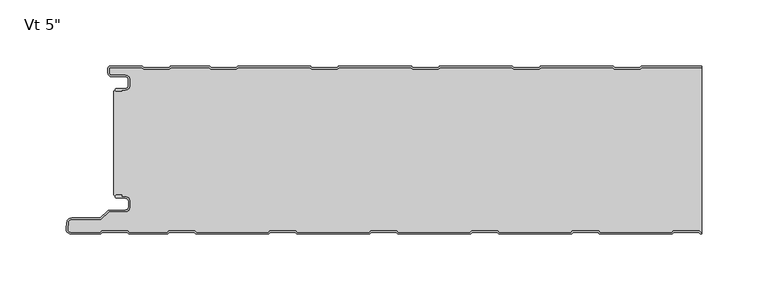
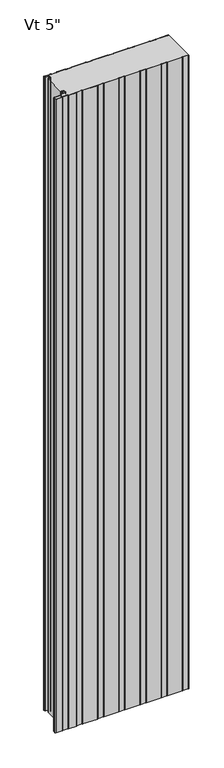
"""IFC4 building model written with IfcOpenShell, lengths in millimetres: plate geometry."""

from ifc_helpers import new_model, si_unit, point, frame, frame_2d, origin, origin_with_axes, place, context, project, spatial, polyline, circle_curve, trimmed, segment, composite_curve, outline, extrude, source, transform, mapped, element, save
from ifc_brep_helpers import plane_surface, cylinder_surface, revolved_surface, advanced_brep


def plate_5aba35be(model_context):
    return source(origin(), model_context, "Body", "SolidModel", [
        advanced_brep(
        [(-219.9686911, -17.0015243, 2400.0), (-220.9686883, -18.0015275, 2400.0), (-219.9686911, -19.0015188, 2400.0), (-215.9684874, -19.0015188, 2400.0), (-215.9684874, -18.0015243, 2400.0), (-213.2762776, -18.0015243, 2400.0), (-209.9762819, -14.7015286, 2400.0), (-209.9762819, -10.3015374, 2400.0), (-213.2762774, -7.0015419, 2400.0), (-223.6962563, -7.0015419, 2400.0), (-225.4662505, -5.2315477, 2400.0), (-225.4662505, -1.0, 2400.0), (-200.9659739, -1.0, 2400.0), (-199.5803313, -2.2002391, 2400.0), (-180.205165, -2.2002391, 2400.0), (-178.819532, -1.0000084, 2400.0), (-150.1661166, -1.0000084, 2400.0), (-148.7804837, -2.2002391, 2400.0), (-129.4053174, -2.2002391, 2400.0), (-128.0196844, -1.0000084, 2400.0), (-73.966269, -1.0000084, 2400.0), (-72.5806361, -2.2002391, 2400.0), (-53.2054698, -2.2002391, 2400.0), (-51.8198368, -1.0000084, 2400.0), (2.2335786, -1.0000084, 2400.0), (3.6192115, -2.2002391, 2400.0), (22.9943778, -2.2002391, 2400.0), (24.3800108, -1.0000084, 2400.0), (78.4334262, -1.0000084, 2400.0), (79.8190591, -2.2002391, 2400.0), (99.1942254, -2.2002391, 2400.0), (100.5798584, -1.0000084, 2400.0), (154.6332738, -1.0000084, 2400.0), (156.0189067, -2.2002391, 2400.0), (175.394073, -2.2002391, 2400.0), (176.779706, -1.0000084, 2400.0), (221.9999998, -1.0000084, 2400.0), (221.9999998, -8.4e-06, 2400.0), (176.9288571, -8.4e-06, 2400.0), (176.0122402, -0.3417969, 2400.0), (175.0211926, -1.2002391, 2400.0), (156.3917872, -1.2002391, 2400.0), (155.4007395, -0.3417969, 2400.0), (154.4841226, -8.4e-06, 2400.0), (100.7290095, -8.4e-06, 2400.0), (99.8123926, -0.3417969, 2400.0), (98.821345, -1.2002391, 2400.0), (80.1919396, -1.2002391, 2400.0), (79.2008919, -0.3417969, 2400.0), (78.284275, -8.4e-06, 2400.0), (24.5291619, -8.4e-06, 2400.0), (23.612545, -0.3417969, 2400.0), (22.6214974, -1.2002391, 2400.0), (3.992092, -1.2002391, 2400.0), (3.0010443, -0.3417969, 2400.0), (2.0844274, -8.4e-06, 2400.0), (-51.6706857, -8.4e-06, 2400.0), (-52.5873026, -0.3417969, 2400.0), (-53.5783502, -1.2002391, 2400.0), (-72.2077556, -1.2002391, 2400.0), (-73.1988033, -0.3417969, 2400.0), (-74.1154202, -8.4e-06, 2400.0), (-127.8705333, -8.4e-06, 2400.0), (-128.7871502, -0.3417969, 2400.0), (-129.7781978, -1.2002391, 2400.0), (-148.4076032, -1.2002391, 2400.0), (-149.3986509, -0.3417969, 2400.0), (-150.3152678, -8.4e-06, 2400.0), (-178.6703809, -8.4e-06, 2400.0), (-179.5869978, -0.3417969, 2400.0), (-180.5780454, -1.2002391, 2400.0), (-199.2074508, -1.2002391, 2400.0), (-200.1984985, -0.3417969, 2400.0), (-201.1152068, -8.4e-06, 2400.0), (-225.0662544, 0.0, 2400.0), (-226.4662505, -1.3999962, 2400.0), (-226.4662505, -5.2315477, 2400.0), (-223.6962563, -8.0015419, 2400.0), (-213.2762774, -8.0015419, 2400.0), (-210.9762819, -10.3015374, 2400.0), (-210.9762819, -14.7015286, 2400.0), (-213.2762776, -17.0015243, 2400.0), (-219.9686911, -17.0015243, 0.0), (-213.2762776, -17.0015243, 0.0), (-210.9762819, -14.7015286, 0.0), (-210.9762819, -10.3015374, 0.0), (-213.2762774, -8.0015419, 0.0), (-223.6962563, -8.0015419, 0.0), (-226.4662505, -5.2315477, 0.0), (-226.4662505, -1.3999962, 0.0), (-225.0662544, 0.0, 0.0), (-201.1151154, 0.0, 0.0), (-200.1984985, -0.3417969, 0.0), (-199.2074508, -1.2002391, 0.0), (-180.5780454, -1.2002391, 0.0), (-179.5869978, -0.3417969, 0.0), (-178.6703809, -8.4e-06, 0.0), (-150.3152678, -8.4e-06, 0.0), (-149.3986509, -0.3417969, 0.0), (-148.4076032, -1.2002391, 0.0), (-129.7781978, -1.2002391, 0.0), (-128.7871502, -0.3417969, 0.0), (-127.8705333, -8.4e-06, 0.0), (-74.1154202, -8.4e-06, 0.0), (-73.1988033, -0.3417969, 0.0), (-72.2077556, -1.2002391, 0.0), (-53.5783502, -1.2002391, 0.0), (-52.5873026, -0.3417969, 0.0), (-51.6706857, -8.4e-06, 0.0), (2.0844274, -8.4e-06, 0.0), (3.0010443, -0.3417969, 0.0), (3.992092, -1.2002391, 0.0), (22.6214974, -1.2002391, 0.0), (23.612545, -0.3417969, 0.0), (24.5291619, -8.4e-06, 0.0), (78.284275, -8.4e-06, 0.0), (79.2008919, -0.3417969, 0.0), (80.1919396, -1.2002391, 0.0), (98.821345, -1.2002391, 0.0), (99.8123926, -0.3417969, 0.0), (100.7290095, -8.4e-06, 0.0), (154.4841226, -8.4e-06, 0.0), (155.4007395, -0.3417969, 0.0), (156.3917872, -1.2002391, 0.0), (175.0211926, -1.2002391, 0.0), (176.0122402, -0.3417969, 0.0), (176.9288571, -8.4e-06, 0.0), (221.9999998, -8.4e-06, 0.0), (221.9999998, -1.0000084, 0.0), (176.779706, -1.0000084, 0.0), (175.394073, -2.2002391, 0.0), (156.0189067, -2.2002391, 0.0), (154.6332738, -1.0000084, 0.0), (100.5798584, -1.0000084, 0.0), (99.1942254, -2.2002391, 0.0), (79.8190591, -2.2002391, 0.0), (78.4334262, -1.0000084, 0.0), (24.3800108, -1.0000084, 0.0), (22.9943778, -2.2002391, 0.0), (3.6192115, -2.2002391, 0.0), (2.2335786, -1.0000084, 0.0), (-51.8198368, -1.0000084, 0.0), (-53.2054698, -2.2002391, 0.0), (-72.5806361, -2.2002391, 0.0), (-73.966269, -1.0000084, 0.0), (-128.0196844, -1.0000084, 0.0), (-129.4053174, -2.2002391, 0.0), (-148.7804837, -2.2002391, 0.0), (-150.1661166, -1.0000084, 0.0), (-178.819532, -1.0000084, 0.0), (-180.205165, -2.2002391, 0.0), (-199.5803313, -2.2002391, 0.0), (-200.9659739, -1.0, 0.0), (-225.4662505, -1.0, 0.0), (-225.4662505, -5.2315477, 0.0), (-223.6962563, -7.0015419, 0.0), (-213.2762774, -7.0015419, 0.0), (-209.9762819, -10.3015374, 0.0), (-209.9762819, -14.7015286, 0.0), (-213.2762776, -18.0015243, 0.0), (-215.9684874, -18.0015243, 0.0), (-215.9684874, -19.0015188, 0.0), (-219.9686911, -19.0015188, 0.0), (-220.9686883, -18.0015275, 0.0)],
        [
            (0, 1, circle_curve(frame((-219.9686911, -18.0015215, 2400.0), z_axis=(0.0, 0.0, 1.0), x_axis=(1.0, 0.0, 0.0)), 0.9999973)),
            (1, 2, circle_curve(frame((-219.9686911, -18.0015216, 2400.0), z_axis=(0.0, 0.0, 1.0), x_axis=(1.0, 0.0, 0.0)), 0.9999972)),
            (2, 3),
            (3, 4),
            (4, 5),
            (5, 6, circle_curve(frame((-213.2762776, -14.7015286, 2400.0), z_axis=(0.0, 0.0, 1.0), x_axis=(1.0, 0.0, 0.0)), 3.2999957)),
            (6, 7),
            (7, 8, circle_curve(frame((-213.2762774, -10.3015374, 2400.0), z_axis=(0.0, 0.0, 1.0), x_axis=(1.0, 0.0, 0.0)), 3.2999955)),
            (8, 9),
            (9, 10, circle_curve(frame((-223.6962563, -5.2315477, 2400.0), z_axis=(0.0, 0.0, -1.0), x_axis=(1.0, 0.0, 0.0)), 1.7699942)),
            (10, 11),
            (11, 12),
            (12, 13),
            (13, 14),
            (14, 15),
            (15, 16),
            (16, 17),
            (17, 18),
            (18, 19),
            (19, 20),
            (20, 21),
            (21, 22),
            (22, 23),
            (23, 24),
            (24, 25),
            (25, 26),
            (26, 27),
            (27, 28),
            (28, 29),
            (29, 30),
            (30, 31),
            (31, 32),
            (32, 33),
            (33, 34),
            (34, 35),
            (35, 36),
            (36, 37),
            (37, 38),
            (38, 39, circle_curve(frame((176.9288571, -1.4000056, 2400.0), z_axis=(0.0, 0.0, 1.0), x_axis=(1.0, 0.0, 0.0)), 1.3999972)),
            (39, 40),
            (40, 41),
            (41, 42),
            (42, 43, circle_curve(frame((154.4841226, -1.4000056, 2400.0), z_axis=(0.0, 0.0, 1.0), x_axis=(1.0, 0.0, 0.0)), 1.3999972)),
            (43, 44),
            (44, 45, circle_curve(frame((100.7290095, -1.4000056, 2400.0), z_axis=(0.0, 0.0, 1.0), x_axis=(1.0, 0.0, 0.0)), 1.3999972)),
            (45, 46),
            (46, 47),
            (47, 48),
            (48, 49, circle_curve(frame((78.284275, -1.4000056, 2400.0), z_axis=(0.0, 0.0, 1.0), x_axis=(1.0, 0.0, 0.0)), 1.3999972)),
            (49, 50),
            (50, 51, circle_curve(frame((24.5291619, -1.4000056, 2400.0), z_axis=(0.0, 0.0, 1.0), x_axis=(1.0, 0.0, 0.0)), 1.3999972)),
            (51, 52),
            (52, 53),
            (53, 54),
            (54, 55, circle_curve(frame((2.0844274, -1.4000056, 2400.0), z_axis=(0.0, 0.0, 1.0), x_axis=(1.0, 0.0, 0.0)), 1.3999972)),
            (55, 56),
            (56, 57, circle_curve(frame((-51.6706857, -1.4000056, 2400.0), z_axis=(0.0, 0.0, 1.0), x_axis=(1.0, 0.0, 0.0)), 1.3999972)),
            (57, 58),
            (58, 59),
            (59, 60),
            (60, 61, circle_curve(frame((-74.1154202, -1.4000056, 2400.0), z_axis=(0.0, 0.0, 1.0), x_axis=(1.0, 0.0, 0.0)), 1.3999972)),
            (61, 62),
            (62, 63, circle_curve(frame((-127.8705333, -1.4000056, 2400.0), z_axis=(0.0, 0.0, 1.0), x_axis=(1.0, 0.0, 0.0)), 1.3999972)),
            (63, 64),
            (64, 65),
            (65, 66),
            (66, 67, circle_curve(frame((-150.3152678, -1.4000056, 2400.0), z_axis=(0.0, 0.0, 1.0), x_axis=(1.0, 0.0, 0.0)), 1.3999972)),
            (67, 68),
            (68, 69, circle_curve(frame((-178.6703809, -1.4000056, 2400.0), z_axis=(0.0, 0.0, 1.0), x_axis=(1.0, 0.0, 0.0)), 1.3999972)),
            (69, 70),
            (70, 71),
            (71, 72),
            (72, 73, circle_curve(frame((-201.1151154, -1.4000056, 2400.0), z_axis=(0.0, 0.0, 1.0), x_axis=(1.0, 0.0, 0.0)), 1.3999972)),
            (73, 74),
            (74, 75, circle_curve(frame((-225.0662544, -1.3999962, 2400.0), z_axis=(0.0, 0.0, 1.0), x_axis=(1.0, 0.0, 0.0)), 1.3999962)),
            (75, 76),
            (76, 77, circle_curve(frame((-223.6962563, -5.2315477, 2400.0), z_axis=(0.0, 0.0, 1.0), x_axis=(1.0, 0.0, 0.0)), 2.7699942)),
            (77, 78),
            (78, 79, circle_curve(frame((-213.2762774, -10.3015374, 2400.0), z_axis=(0.0, 0.0, -1.0), x_axis=(1.0, 0.0, 0.0)), 2.2999955)),
            (79, 80),
            (80, 81, circle_curve(frame((-213.2762776, -14.7015286, 2400.0), z_axis=(0.0, 0.0, -1.0), x_axis=(1.0, 0.0, 0.0)), 2.2999957)),
            (81, 0),
            (82, 83),
            (83, 84, circle_curve(frame((-213.2762776, -14.7015286, 0.0), z_axis=(0.0, 0.0, 1.0), x_axis=(1.0, 0.0, 0.0)), 2.2999957)),
            (84, 85),
            (85, 86, circle_curve(frame((-213.2762774, -10.3015374, 0.0), z_axis=(0.0, 0.0, 1.0), x_axis=(1.0, 0.0, 0.0)), 2.2999955)),
            (86, 87),
            (87, 88, circle_curve(frame((-223.6962563, -5.2315477, 0.0), z_axis=(0.0, 0.0, -1.0), x_axis=(1.0, 0.0, 0.0)), 2.7699942)),
            (88, 89),
            (89, 90, circle_curve(frame((-225.0662544, -1.3999962, 0.0), z_axis=(0.0, 0.0, -1.0), x_axis=(1.0, 0.0, 0.0)), 1.3999962)),
            (90, 91),
            (91, 92, circle_curve(frame((-201.1151154, -1.4000056, 0.0), z_axis=(0.0, 0.0, -1.0), x_axis=(1.0, 0.0, 0.0)), 1.3999972)),
            (92, 93),
            (93, 94),
            (94, 95),
            (95, 96, circle_curve(frame((-178.6703809, -1.4000056, 0.0), z_axis=(0.0, 0.0, -1.0), x_axis=(1.0, 0.0, 0.0)), 1.3999972)),
            (96, 97),
            (97, 98, circle_curve(frame((-150.3152678, -1.4000056, 0.0), z_axis=(0.0, 0.0, -1.0), x_axis=(1.0, 0.0, 0.0)), 1.3999972)),
            (98, 99),
            (99, 100),
            (100, 101),
            (101, 102, circle_curve(frame((-127.8705333, -1.4000056, 0.0), z_axis=(0.0, 0.0, -1.0), x_axis=(1.0, 0.0, 0.0)), 1.3999972)),
            (102, 103),
            (103, 104, circle_curve(frame((-74.1154202, -1.4000056, 0.0), z_axis=(0.0, 0.0, -1.0), x_axis=(1.0, 0.0, 0.0)), 1.3999972)),
            (104, 105),
            (105, 106),
            (106, 107),
            (107, 108, circle_curve(frame((-51.6706857, -1.4000056, 0.0), z_axis=(0.0, 0.0, -1.0), x_axis=(1.0, 0.0, 0.0)), 1.3999972)),
            (108, 109),
            (109, 110, circle_curve(frame((2.0844274, -1.4000056, 0.0), z_axis=(0.0, 0.0, -1.0), x_axis=(1.0, 0.0, 0.0)), 1.3999972)),
            (110, 111),
            (111, 112),
            (112, 113),
            (113, 114, circle_curve(frame((24.5291619, -1.4000056, 0.0), z_axis=(0.0, 0.0, -1.0), x_axis=(1.0, 0.0, 0.0)), 1.3999972)),
            (114, 115),
            (115, 116, circle_curve(frame((78.284275, -1.4000056, 0.0), z_axis=(0.0, 0.0, -1.0), x_axis=(1.0, 0.0, 0.0)), 1.3999972)),
            (116, 117),
            (117, 118),
            (118, 119),
            (119, 120, circle_curve(frame((100.7290095, -1.4000056, 0.0), z_axis=(0.0, 0.0, -1.0), x_axis=(1.0, 0.0, 0.0)), 1.3999972)),
            (120, 121),
            (121, 122, circle_curve(frame((154.4841226, -1.4000056, 0.0), z_axis=(0.0, 0.0, -1.0), x_axis=(1.0, 0.0, 0.0)), 1.3999972)),
            (122, 123),
            (123, 124),
            (124, 125),
            (125, 126, circle_curve(frame((176.9288571, -1.4000056, 0.0), z_axis=(0.0, 0.0, -1.0), x_axis=(1.0, 0.0, 0.0)), 1.3999972)),
            (126, 127),
            (127, 128),
            (128, 129),
            (129, 130),
            (130, 131),
            (131, 132),
            (132, 133),
            (133, 134),
            (134, 135),
            (135, 136),
            (136, 137),
            (137, 138),
            (138, 139),
            (139, 140),
            (140, 141),
            (141, 142),
            (142, 143),
            (143, 144),
            (144, 145),
            (145, 146),
            (146, 147),
            (147, 148),
            (148, 149),
            (149, 150),
            (150, 151),
            (151, 152),
            (152, 153),
            (153, 154),
            (154, 155, circle_curve(frame((-223.6962563, -5.2315477, 0.0), z_axis=(0.0, 0.0, 1.0), x_axis=(1.0, 0.0, 0.0)), 1.7699942)),
            (155, 156),
            (156, 157, circle_curve(frame((-213.2762774, -10.3015374, 0.0), z_axis=(0.0, 0.0, -1.0), x_axis=(1.0, 0.0, 0.0)), 3.2999955)),
            (157, 158),
            (158, 159, circle_curve(frame((-213.2762776, -14.7015286, 0.0), z_axis=(0.0, 0.0, -1.0), x_axis=(1.0, 0.0, 0.0)), 3.2999957)),
            (159, 160),
            (160, 161),
            (161, 162),
            (162, 163, circle_curve(frame((-219.9686911, -18.0015216, 0.0), z_axis=(0.0, 0.0, -1.0), x_axis=(1.0, 0.0, 0.0)), 0.9999972)),
            (163, 82, circle_curve(frame((-219.9686911, -18.0015215, 0.0), z_axis=(0.0, 0.0, -1.0), x_axis=(1.0, 0.0, 0.0)), 0.9999973)),
            (36, 128),
            (127, 37),
            (81, 83),
            (82, 0),
            (80, 84),
            (79, 85),
            (78, 86),
            (77, 87),
            (76, 88),
            (75, 89),
            (74, 90),
            (73, 91),
            (72, 92),
            (71, 93),
            (70, 94),
            (69, 95),
            (68, 96),
            (67, 97),
            (66, 98),
            (65, 99),
            (64, 100),
            (63, 101),
            (62, 102),
            (61, 103),
            (60, 104),
            (59, 105),
            (58, 106),
            (57, 107),
            (56, 108),
            (55, 109),
            (54, 110),
            (53, 111),
            (52, 112),
            (51, 113),
            (50, 114),
            (49, 115),
            (48, 116),
            (47, 117),
            (46, 118),
            (45, 119),
            (44, 120),
            (43, 121),
            (42, 122),
            (41, 123),
            (40, 124),
            (39, 125),
            (38, 126),
            (35, 129),
            (34, 130),
            (33, 131),
            (32, 132),
            (31, 133),
            (30, 134),
            (29, 135),
            (28, 136),
            (27, 137),
            (26, 138),
            (25, 139),
            (24, 140),
            (23, 141),
            (22, 142),
            (21, 143),
            (20, 144),
            (19, 145),
            (18, 146),
            (17, 147),
            (16, 148),
            (15, 149),
            (14, 150),
            (13, 151),
            (12, 152),
            (11, 153),
            (10, 154),
            (9, 155),
            (8, 156),
            (7, 157),
            (6, 158),
            (5, 159),
            (4, 160),
            (3, 161),
            (2, 162),
            (1, 163),
        ],
        [
            plane_surface(frame((286.0000002, -8.4e-06, 2400.0), z_axis=(0.0, 0.0, 1.0), x_axis=(0.0, 1.0, 0.0))),
            plane_surface(frame((286.0000002, -8.4e-06, 0.0), z_axis=(0.0, 0.0, -1.0), x_axis=(0.0, 1.0, 0.0))),
            plane_surface(frame((221.9999998, -137.0000084, 2400.0), z_axis=(1.0, 0.0, 0.0), x_axis=(0.0, 0.0, -1.0))),
            plane_surface(frame((-219.9686911, -17.0015243, 2400.0), z_axis=(0.0, 1.0, 0.0), x_axis=(0.0, 0.0, -1.0))),
            revolved_surface(polyline([(-210.97628189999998, -14.7015286, 0.0), (-210.97628189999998, -14.7015286, 2400.0)]), (-213.2762776, -14.7015286, 2400.0), (0.0, 0.0, -1.0)),
            plane_surface(frame((-210.9762819, -14.7015286, 2400.0), z_axis=(-1.0, 0.0, 0.0), x_axis=(0.0, 0.0, -1.0))),
            revolved_surface(polyline([(-210.9762819, -10.3015374, 0.0), (-210.9762819, -10.3015374, 2400.0)]), (-213.2762774, -10.3015374, 2400.0), (0.0, 0.0, -1.0)),
            plane_surface(frame((-213.2762774, -8.0015419, 2400.0), z_axis=(0.0, -1.0, 0.0), x_axis=(0.0, 0.0, -1.0))),
            cylinder_surface(frame((-223.6962563, -5.2315477, 2400.0), z_axis=(0.0, 0.0, 1.0), x_axis=(1.0, 0.0, 0.0)), 2.7699942),
            plane_surface(frame((-226.4662505, -5.2315477, 2400.0), z_axis=(-1.0, 0.0, 0.0), x_axis=(0.0, 0.0, -1.0))),
            cylinder_surface(frame((-225.0662544, -1.3999962, 2400.0), z_axis=(0.0, 0.0, 1.0), x_axis=(1.0, 0.0, 0.0)), 1.3999962),
            plane_surface(frame((-225.0662544, 0.0, 2400.0), z_axis=(0.0, 1.0, 0.0), x_axis=(0.0, 0.0, -1.0))),
            cylinder_surface(frame((-201.1151154, -1.4000056, 2400.0), z_axis=(0.0, 0.0, 1.0), x_axis=(1.0, 0.0, 0.0)), 1.3999972),
            plane_surface(frame((-200.1984985, -0.3417969, 2400.0), z_axis=(0.6547276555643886, 0.755864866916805, 0.0), x_axis=(0.0, 0.0, -1.0))),
            plane_surface(frame((-189.8927481, -1.2002391, 2400.0), z_axis=(0.0, 1.0, 0.0), x_axis=(0.0, 0.0, -1.0))),
            plane_surface(frame((-180.5780454, -1.2002391, 2400.0), z_axis=(-0.6547276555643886, 0.755864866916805, 0.0), x_axis=(0.0, 0.0, -1.0))),
            cylinder_surface(frame((-178.6703809, -1.4000056, 2400.0), z_axis=(0.0, 0.0, 1.0), x_axis=(1.0, 0.0, 0.0)), 1.3999972),
            plane_surface(frame((-178.6703809, -8.4e-06, 2400.0), z_axis=(0.0, 1.0, 0.0), x_axis=(0.0, 0.0, -1.0))),
            cylinder_surface(frame((-150.3152678, -1.4000056, 2400.0), z_axis=(0.0, 0.0, 1.0), x_axis=(1.0, 0.0, 0.0)), 1.3999972),
            plane_surface(frame((-149.3986509, -0.3417969, 2400.0), z_axis=(0.6547276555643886, 0.755864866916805, 0.0), x_axis=(0.0, 0.0, -1.0))),
            plane_surface(frame((-139.0929005, -1.2002391, 2400.0), z_axis=(0.0, 1.0, 0.0), x_axis=(0.0, 0.0, -1.0))),
            plane_surface(frame((-129.7781978, -1.2002391, 2400.0), z_axis=(-0.6547276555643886, 0.755864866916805, 0.0), x_axis=(0.0, 0.0, -1.0))),
            cylinder_surface(frame((-127.8705333, -1.4000056, 2400.0), z_axis=(0.0, 0.0, 1.0), x_axis=(1.0, 0.0, 0.0)), 1.3999972),
            plane_surface(frame((-127.8705333, -8.4e-06, 2400.0), z_axis=(0.0, 1.0, 0.0), x_axis=(0.0, 0.0, -1.0))),
            cylinder_surface(frame((-74.1154202, -1.4000056, 2400.0), z_axis=(0.0, 0.0, 1.0), x_axis=(1.0, 0.0, 0.0)), 1.3999972),
            plane_surface(frame((-73.1988033, -0.3417969, 2400.0), z_axis=(0.6547276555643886, 0.755864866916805, 0.0), x_axis=(0.0, 0.0, -1.0))),
            plane_surface(frame((-62.8930529, -1.2002391, 2400.0), z_axis=(0.0, 1.0, 0.0), x_axis=(0.0, 0.0, -1.0))),
            plane_surface(frame((-53.5783502, -1.2002391, 2400.0), z_axis=(-0.6547276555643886, 0.755864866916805, 0.0), x_axis=(0.0, 0.0, -1.0))),
            cylinder_surface(frame((-51.6706857, -1.4000056, 2400.0), z_axis=(0.0, 0.0, 1.0), x_axis=(1.0, 0.0, 0.0)), 1.3999972),
            plane_surface(frame((-51.6706857, -8.4e-06, 2400.0), z_axis=(0.0, 1.0, 0.0), x_axis=(0.0, 0.0, -1.0))),
            cylinder_surface(frame((2.0844274, -1.4000056, 2400.0), z_axis=(0.0, 0.0, 1.0), x_axis=(1.0, 0.0, 0.0)), 1.3999972),
            plane_surface(frame((3.0010443, -0.3417969, 2400.0), z_axis=(0.6547276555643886, 0.755864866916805, 0.0), x_axis=(0.0, 0.0, -1.0))),
            plane_surface(frame((13.3067947, -1.2002391, 2400.0), z_axis=(0.0, 1.0, 0.0), x_axis=(0.0, 0.0, -1.0))),
            plane_surface(frame((22.6214974, -1.2002391, 2400.0), z_axis=(-0.6547276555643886, 0.755864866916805, 0.0), x_axis=(0.0, 0.0, -1.0))),
            cylinder_surface(frame((24.5291619, -1.4000056, 2400.0), z_axis=(0.0, 0.0, 1.0), x_axis=(1.0, 0.0, 0.0)), 1.3999972),
            plane_surface(frame((24.5291619, -8.4e-06, 2400.0), z_axis=(0.0, 1.0, 0.0), x_axis=(0.0, 0.0, -1.0))),
            cylinder_surface(frame((78.284275, -1.4000056, 2400.0), z_axis=(0.0, 0.0, 1.0), x_axis=(1.0, 0.0, 0.0)), 1.3999972),
            plane_surface(frame((79.2008919, -0.3417969, 2400.0), z_axis=(0.6547276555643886, 0.755864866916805, 0.0), x_axis=(0.0, 0.0, -1.0))),
            plane_surface(frame((89.5066423, -1.2002391, 2400.0), z_axis=(0.0, 1.0, 0.0), x_axis=(0.0, 0.0, -1.0))),
            plane_surface(frame((98.821345, -1.2002391, 2400.0), z_axis=(-0.6547276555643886, 0.755864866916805, 0.0), x_axis=(0.0, 0.0, -1.0))),
            cylinder_surface(frame((100.7290095, -1.4000056, 2400.0), z_axis=(0.0, 0.0, 1.0), x_axis=(1.0, 0.0, 0.0)), 1.3999972),
            plane_surface(frame((100.7290095, -8.4e-06, 2400.0), z_axis=(0.0, 1.0, 0.0), x_axis=(0.0, 0.0, -1.0))),
            cylinder_surface(frame((154.4841226, -1.4000056, 2400.0), z_axis=(0.0, 0.0, 1.0), x_axis=(1.0, 0.0, 0.0)), 1.3999972),
            plane_surface(frame((155.4007395, -0.3417969, 2400.0), z_axis=(0.6547276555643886, 0.755864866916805, 0.0), x_axis=(0.0, 0.0, -1.0))),
            plane_surface(frame((165.7064899, -1.2002391, 2400.0), z_axis=(0.0, 1.0, 0.0), x_axis=(0.0, 0.0, -1.0))),
            plane_surface(frame((175.0211926, -1.2002391, 2400.0), z_axis=(-0.6547276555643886, 0.755864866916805, 0.0), x_axis=(0.0, 0.0, -1.0))),
            cylinder_surface(frame((176.9288571, -1.4000056, 2400.0), z_axis=(0.0, 0.0, 1.0), x_axis=(1.0, 0.0, 0.0)), 1.3999972),
            plane_surface(frame((176.9288571, -8.4e-06, 2400.0), z_axis=(0.0, 1.0, 0.0), x_axis=(0.0, 0.0, -1.0))),
            plane_surface(frame((230.8331214, -1.0000084, 2400.0), z_axis=(0.0, -1.0, 0.0), x_axis=(0.0, 0.0, -1.0))),
            plane_surface(frame((176.779706, -1.0000084, 2400.0), z_axis=(0.6547276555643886, -0.755864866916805, 0.0), x_axis=(0.0, 0.0, -1.0))),
            plane_surface(frame((175.394073, -2.2002391, 2400.0), z_axis=(0.0, -1.0, 0.0), x_axis=(0.0, 0.0, -1.0))),
            plane_surface(frame((156.0189067, -2.2002391, 2400.0), z_axis=(-0.6547276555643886, -0.755864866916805, 0.0), x_axis=(0.0, 0.0, -1.0))),
            plane_surface(frame((154.6332738, -1.0000084, 2400.0), z_axis=(0.0, -1.0, 0.0), x_axis=(0.0, 0.0, -1.0))),
            plane_surface(frame((100.5798584, -1.0000084, 2400.0), z_axis=(0.6547276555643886, -0.755864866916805, 0.0), x_axis=(0.0, 0.0, -1.0))),
            plane_surface(frame((99.1942254, -2.2002391, 2400.0), z_axis=(0.0, -1.0, 0.0), x_axis=(0.0, 0.0, -1.0))),
            plane_surface(frame((79.8190591, -2.2002391, 2400.0), z_axis=(-0.6547276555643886, -0.755864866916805, 0.0), x_axis=(0.0, 0.0, -1.0))),
            plane_surface(frame((78.4334262, -1.0000084, 2400.0), z_axis=(0.0, -1.0, 0.0), x_axis=(0.0, 0.0, -1.0))),
            plane_surface(frame((24.3800108, -1.0000084, 2400.0), z_axis=(0.6547276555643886, -0.755864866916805, 0.0), x_axis=(0.0, 0.0, -1.0))),
            plane_surface(frame((22.9943778, -2.2002391, 2400.0), z_axis=(0.0, -1.0, 0.0), x_axis=(0.0, 0.0, -1.0))),
            plane_surface(frame((3.6192115, -2.2002391, 2400.0), z_axis=(-0.6547276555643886, -0.755864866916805, 0.0), x_axis=(0.0, 0.0, -1.0))),
            plane_surface(frame((2.2335786, -1.0000084, 2400.0), z_axis=(0.0, -1.0, 0.0), x_axis=(0.0, 0.0, -1.0))),
            plane_surface(frame((-51.8198368, -1.0000084, 2400.0), z_axis=(0.6547276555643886, -0.755864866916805, 0.0), x_axis=(0.0, 0.0, -1.0))),
            plane_surface(frame((-53.2054698, -2.2002391, 2400.0), z_axis=(0.0, -1.0, 0.0), x_axis=(0.0, 0.0, -1.0))),
            plane_surface(frame((-72.5806361, -2.2002391, 2400.0), z_axis=(-0.6547276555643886, -0.755864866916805, 0.0), x_axis=(0.0, 0.0, -1.0))),
            plane_surface(frame((-73.966269, -1.0000084, 2400.0), z_axis=(0.0, -1.0, 0.0), x_axis=(0.0, 0.0, -1.0))),
            plane_surface(frame((-128.0196844, -1.0000084, 2400.0), z_axis=(0.6547276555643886, -0.755864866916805, 0.0), x_axis=(0.0, 0.0, -1.0))),
            plane_surface(frame((-129.4053174, -2.2002391, 2400.0), z_axis=(0.0, -1.0, 0.0), x_axis=(0.0, 0.0, -1.0))),
            plane_surface(frame((-148.7804837, -2.2002391, 2400.0), z_axis=(-0.6547276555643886, -0.755864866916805, 0.0), x_axis=(0.0, 0.0, -1.0))),
            plane_surface(frame((-150.1661166, -1.0000084, 2400.0), z_axis=(0.0, -1.0, 0.0), x_axis=(0.0, 0.0, -1.0))),
            plane_surface(frame((-178.819532, -1.0000084, 2400.0), z_axis=(0.6547276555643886, -0.755864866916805, 0.0), x_axis=(0.0, 0.0, -1.0))),
            plane_surface(frame((-180.205165, -2.2002391, 2400.0), z_axis=(0.0, -1.0, 0.0), x_axis=(0.0, 0.0, -1.0))),
            plane_surface(frame((-199.5803313, -2.2002391, 2400.0), z_axis=(-0.6547276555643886, -0.755864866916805, 0.0), x_axis=(0.0, 0.0, -1.0))),
            plane_surface(frame((-200.9659739, -1.0, 2400.0), z_axis=(0.0, -1.0, 0.0), x_axis=(0.0, 0.0, -1.0))),
            plane_surface(frame((-225.4662505, -1.0, 2400.0), z_axis=(1.0, 0.0, 0.0), x_axis=(0.0, 0.0, -1.0))),
            revolved_surface(polyline([(-221.92626209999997, -5.2315477, 0.0), (-221.92626209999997, -5.2315477, 2400.0)]), (-223.6962563, -5.2315477, 2400.0), (0.0, 0.0, -1.0)),
            plane_surface(frame((-223.6962563, -7.0015419, 2400.0), z_axis=(0.0, 1.0, 0.0), x_axis=(0.0, 0.0, -1.0))),
            cylinder_surface(frame((-213.2762774, -10.3015374, 2400.0), z_axis=(0.0, 0.0, 1.0), x_axis=(1.0, 0.0, 0.0)), 3.2999955),
            plane_surface(frame((-209.9762819, -10.3015374, 2400.0), z_axis=(1.0, 0.0, 0.0), x_axis=(0.0, 0.0, -1.0))),
            cylinder_surface(frame((-213.2762776, -14.7015286, 2400.0), z_axis=(0.0, 0.0, 1.0), x_axis=(1.0, 0.0, 0.0)), 3.2999957),
            plane_surface(frame((-213.2762776, -18.0015243, 2400.0), z_axis=(0.0, -1.0, 0.0), x_axis=(0.0, 0.0, -1.0))),
            plane_surface(frame((-215.9684874, -18.0015243, 2400.0), z_axis=(1.0, 0.0, 0.0), x_axis=(0.0, 0.0, -1.0))),
            plane_surface(frame((-215.9684874, -19.0015188, 2400.0), z_axis=(0.0, -1.0, 0.0), x_axis=(0.0, 0.0, -1.0))),
            cylinder_surface(frame((-219.9686911, -18.0015216, 2400.0), z_axis=(0.0, 0.0, 1.0), x_axis=(1.0, 0.0, 0.0)), 0.9999972),
            cylinder_surface(frame((-219.9686911, -18.0015215, 2400.0), z_axis=(0.0, 0.0, 1.0), x_axis=(1.0, 0.0, 0.0)), 0.9999973),
        ],
        [
            (0, [[1, 2, 3, 4, 5, 6, 7, 8, 9, 10, 11, 12, 13, 14, 15, 16, 17, 18, 19, 20, 21, 22, 23, 24, 25, 26, 27, 28, 29, 30, 31, 32, 33, 34, 35, 36, 37, 38, 39, 40, 41, 42, 43, 44, 45, 46, 47, 48, 49, 50, 51, 52, 53, 54, 55, 56, 57, 58, 59, 60, 61, 62, 63, 64, 65, 66, 67, 68, 69, 70, 71, 72, 73, 74, 75, 76, 77, 78, 79, 80, 81, 82]]),
            (1, [[83, 84, 85, 86, 87, 88, 89, 90, 91, 92, 93, 94, 95, 96, 97, 98, 99, 100, 101, 102, 103, 104, 105, 106, 107, 108, 109, 110, 111, 112, 113, 114, 115, 116, 117, 118, 119, 120, 121, 122, 123, 124, 125, 126, 127, 128, 129, 130, 131, 132, 133, 134, 135, 136, 137, 138, 139, 140, 141, 142, 143, 144, 145, 146, 147, 148, 149, 150, 151, 152, 153, 154, 155, 156, 157, 158, 159, 160, 161, 162, 163, 164]]),
            (2, [[165, -128, 166, -37]]),
            (3, [[167, -83, 168, -82]]),
            (4, [[169, -84, -167, -81]]),
            (5, [[170, -85, -169, -80]]),
            (6, [[171, -86, -170, -79]]),
            (7, [[172, -87, -171, -78]]),
            (8, [[173, -88, -172, -77]]),
            (9, [[174, -89, -173, -76]]),
            (10, [[175, -90, -174, -75]]),
            (11, [[176, -91, -175, -74]]),
            (12, [[177, -92, -176, -73]]),
            (13, [[178, -93, -177, -72]]),
            (14, [[179, -94, -178, -71]]),
            (15, [[180, -95, -179, -70]]),
            (16, [[181, -96, -180, -69]]),
            (17, [[182, -97, -181, -68]]),
            (18, [[183, -98, -182, -67]]),
            (19, [[184, -99, -183, -66]]),
            (20, [[185, -100, -184, -65]]),
            (21, [[186, -101, -185, -64]]),
            (22, [[187, -102, -186, -63]]),
            (23, [[188, -103, -187, -62]]),
            (24, [[189, -104, -188, -61]]),
            (25, [[190, -105, -189, -60]]),
            (26, [[191, -106, -190, -59]]),
            (27, [[192, -107, -191, -58]]),
            (28, [[193, -108, -192, -57]]),
            (29, [[194, -109, -193, -56]]),
            (30, [[195, -110, -194, -55]]),
            (31, [[196, -111, -195, -54]]),
            (32, [[197, -112, -196, -53]]),
            (33, [[198, -113, -197, -52]]),
            (34, [[199, -114, -198, -51]]),
            (35, [[200, -115, -199, -50]]),
            (36, [[201, -116, -200, -49]]),
            (37, [[202, -117, -201, -48]]),
            (38, [[203, -118, -202, -47]]),
            (39, [[204, -119, -203, -46]]),
            (40, [[205, -120, -204, -45]]),
            (41, [[206, -121, -205, -44]]),
            (42, [[207, -122, -206, -43]]),
            (43, [[208, -123, -207, -42]]),
            (44, [[209, -124, -208, -41]]),
            (45, [[210, -125, -209, -40]]),
            (46, [[211, -126, -210, -39]]),
            (47, [[-38, -166, -127, -211]]),
            (48, [[-129, -165, -36, 212]]),
            (49, [[213, -130, -212, -35]]),
            (50, [[214, -131, -213, -34]]),
            (51, [[215, -132, -214, -33]]),
            (52, [[216, -133, -215, -32]]),
            (53, [[217, -134, -216, -31]]),
            (54, [[218, -135, -217, -30]]),
            (55, [[219, -136, -218, -29]]),
            (56, [[220, -137, -219, -28]]),
            (57, [[221, -138, -220, -27]]),
            (58, [[222, -139, -221, -26]]),
            (59, [[223, -140, -222, -25]]),
            (60, [[224, -141, -223, -24]]),
            (61, [[225, -142, -224, -23]]),
            (62, [[226, -143, -225, -22]]),
            (63, [[227, -144, -226, -21]]),
            (64, [[228, -145, -227, -20]]),
            (65, [[229, -146, -228, -19]]),
            (66, [[230, -147, -229, -18]]),
            (67, [[231, -148, -230, -17]]),
            (68, [[232, -149, -231, -16]]),
            (69, [[233, -150, -232, -15]]),
            (70, [[234, -151, -233, -14]]),
            (71, [[235, -152, -234, -13]]),
            (72, [[236, -153, -235, -12]]),
            (73, [[237, -154, -236, -11]]),
            (74, [[238, -155, -237, -10]]),
            (75, [[239, -156, -238, -9]]),
            (76, [[240, -157, -239, -8]]),
            (77, [[241, -158, -240, -7]]),
            (78, [[242, -159, -241, -6]]),
            (79, [[243, -160, -242, -5]]),
            (80, [[244, -161, -243, -4]]),
            (81, [[245, -162, -244, -3]]),
            (82, [[246, -163, -245, -2]]),
            (83, [[-168, -164, -246, -1]]),
        ],
    ),
        extrude(outline(composite_curve([segment(polyline([(-232.6415932, -126.9997462), (-254.4521175, -126.9997462)]), True, "CONTINUOUS"), segment(trimmed(circle_curve(frame_2d((-254.4521175, -123.4295069)), 3.5702393), [point((-254.4521175, -126.9997462))], [point((-258.0087619, -123.1182365))], False, "CARTESIAN"), True, "CONTINUOUS"), segment(polyline([(-258.0087619, -123.1182365), (-257.5690674, -118.0941899)]), True, "CONTINUOUS"), segment(trimmed(circle_curve(frame_2d((-253.9198391, -118.704991)), 3.6999926), [point((-257.5690674, -118.0941899))], [point((-253.9198391, -115.0049984))], False, "CARTESIAN"), True, "CONTINUOUS"), segment(polyline([(-253.9198391, -115.0049984), (-232.7773995, -115.0049984)]), True, "CONTINUOUS"), segment(trimmed(circle_curve(frame_2d((-232.7773995, -113.705001)), 1.2999974), [point((-232.7773995, -115.0049984))], [point((-231.8581626, -114.624238))], True, "CARTESIAN"), True, "CONTINUOUS"), segment(polyline([(-231.8581626, -114.624238), (-227.0297451, -109.7958205)]), True, "CONTINUOUS"), segment(trimmed(circle_curve(frame_2d((-225.1205606, -111.705005)), 2.6999946), [point((-227.0297451, -109.7958205))], [point((-225.1205606, -109.0050104))], False, "CARTESIAN"), True, "CONTINUOUS"), segment(polyline([(-225.1205606, -109.0050104), (-213.3096715, -109.0050104)]), True, "CONTINUOUS"), segment(trimmed(circle_curve(frame_2d((-213.3096715, -106.6550151)), 2.3499953), [point((-213.3096715, -109.0050104))], [point((-210.9596762, -106.6550151))], True, "CARTESIAN"), True, "CONTINUOUS"), segment(polyline([(-210.9596762, -106.6550151), (-210.9596762, -102.2550239)]), True, "CONTINUOUS"), segment(trimmed(circle_curve(frame_2d((-213.3096715, -102.2550239)), 2.3499953), [point((-210.9596762, -102.2550239))], [point((-213.3096715, -99.9050286))], True, "CARTESIAN"), True, "CONTINUOUS"), segment(polyline([(-213.3096715, -99.9050286), (-219.8289777, -99.9050286)]), True, "CONTINUOUS"), segment(trimmed(circle_curve(frame_2d((-219.7686906, -98.7065463)), 1.1999976), [point((-219.8289777, -99.9050286))], [point((-220.9683, -98.6760244))], False, "CARTESIAN"), True, "CONTINUOUS"), segment(trimmed(circle_curve(frame_2d((-219.7686906, -98.7065463)), 1.1999976), [point((-220.9683, -98.6760244))], [point((-219.767176, -97.5065497))], False, "CARTESIAN"), True, "CONTINUOUS"), segment(polyline([(-219.767176, -97.5065497), (-216.0087826, -97.5065497), (-216.0087826, -98.9050286), (-213.3096715, -98.9050286)]), True, "CONTINUOUS"), segment(trimmed(circle_curve(frame_2d((-213.3096715, -102.2550239)), 3.3499953), [point((-213.3096715, -98.9050286))], [point((-209.9596762, -102.2550239))], False, "CARTESIAN"), True, "CONTINUOUS"), segment(polyline([(-209.9596762, -102.2550239), (-209.9596762, -106.6550151)]), True, "CONTINUOUS"), segment(trimmed(circle_curve(frame_2d((-213.3096715, -106.6550151)), 3.3499953), [point((-209.9596762, -106.6550151))], [point((-213.3096715, -110.0050104))], False, "CARTESIAN"), True, "CONTINUOUS"), segment(polyline([(-213.3096715, -110.0050104), (-225.1205606, -110.0050104)]), True, "CONTINUOUS"), segment(trimmed(circle_curve(frame_2d((-225.1205606, -111.705005)), 1.6999946), [point((-225.1205606, -110.0050104))], [point((-226.3226383, -110.5029273))], True, "CARTESIAN"), True, "CONTINUOUS"), segment(polyline([(-226.3226383, -110.5029273), (-231.8247094, -116.0049984), (-253.9198391, -116.0049984)]), True, "CONTINUOUS"), segment(trimmed(circle_curve(frame_2d((-253.9198391, -118.704991)), 2.6999926), [point((-253.9198391, -116.0049984))], [point((-256.5765707, -118.2236004))], True, "CARTESIAN"), True, "CONTINUOUS"), segment(polyline([(-256.5765707, -118.2236004), (-257.0125697, -123.2054212)]), True, "CONTINUOUS"), segment(trimmed(circle_curve(frame_2d((-254.4521175, -123.4295069)), 2.5702393), [point((-257.0125697, -123.2054212))], [point((-254.4521175, -125.9997462))], True, "CARTESIAN"), True, "CONTINUOUS"), segment(polyline([(-254.4521175, -125.9997462), (-232.479096, -125.9997462), (-231.2791275, -124.7997777), (-211.559715, -124.7997777), (-210.3594843, -126.0000084), (-181.6793525, -126.0000084), (-180.4791218, -124.7997777), (-160.7597093, -124.7997777), (-159.5594786, -126.0000084), (-105.4793468, -126.0000084), (-104.2791161, -124.7997777), (-84.5597036, -124.7997777), (-83.3594729, -126.0000084), (-29.2793411, -126.0000084), (-28.0791104, -124.7997777), (-8.3596979, -124.7997777), (-7.1594672, -126.0000084), (46.9206646, -126.0000084), (48.1208953, -124.7997777), (67.8403078, -124.7997777), (69.0405385, -126.0000084), (123.1206703, -126.0000084), (124.320901, -124.7997777), (144.0403135, -124.7997777), (145.2405442, -126.0000084), (199.3206759, -126.0000084), (200.5209066, -124.7997777), (220.2403192, -124.7997777), (221.4405499, -126.0000084), (221.9999998, -126.0000084), (221.9999998, -127.0000084), (221.6098268, -127.0000084)]), True, "CONTINUOUS"), segment(trimmed(circle_curve(frame_2d((221.6021734, -125.6000321)), 1.3999972), [point((221.6098268, -127.0000084))], [point((220.5581226, -126.5327432))], False, "CARTESIAN"), True, "CONTINUOUS"), segment(polyline([(220.5581226, -126.5327432), (219.825157, -125.7997777), (200.9344878, -125.7997777), (200.2015432, -126.5327223)]), True, "CONTINUOUS"), segment(trimmed(circle_curve(frame_2d((199.1574924, -125.6000112)), 1.3999972), [point((200.2015432, -126.5327223))], [point((199.1574924, -127.0000084))], False, "CARTESIAN"), True, "CONTINUOUS"), segment(polyline([(199.1574924, -127.0000084), (145.4099792, -127.0000084)]), True, "CONTINUOUS"), segment(trimmed(circle_curve(frame_2d((145.4023258, -125.6000321)), 1.3999972), [point((145.4099792, -127.0000084))], [point((144.358275, -126.5327432))], False, "CARTESIAN"), True, "CONTINUOUS"), segment(polyline([(144.358275, -126.5327432), (143.6253094, -125.7997777), (124.7346402, -125.7997777), (124.0016956, -126.5327223)]), True, "CONTINUOUS"), segment(trimmed(circle_curve(frame_2d((122.9576448, -125.6000112)), 1.3999972), [point((124.0016956, -126.5327223))], [point((122.9576448, -127.0000084))], False, "CARTESIAN"), True, "CONTINUOUS"), segment(polyline([(122.9576448, -127.0000084), (69.2101316, -127.0000084)]), True, "CONTINUOUS"), segment(trimmed(circle_curve(frame_2d((69.2024782, -125.6000321)), 1.3999972), [point((69.2101316, -127.0000084))], [point((68.1584274, -126.5327432))], False, "CARTESIAN"), True, "CONTINUOUS"), segment(polyline([(68.1584274, -126.5327432), (67.4254618, -125.7997777), (48.5347926, -125.7997777), (47.801848, -126.5327223)]), True, "CONTINUOUS"), segment(trimmed(circle_curve(frame_2d((46.7577972, -125.6000112)), 1.3999972), [point((47.801848, -126.5327223))], [point((46.7577972, -127.0000084))], False, "CARTESIAN"), True, "CONTINUOUS"), segment(polyline([(46.7577972, -127.0000084), (-6.989716, -127.0000084)]), True, "CONTINUOUS"), segment(trimmed(circle_curve(frame_2d((-6.9973694, -125.6000321)), 1.3999972), [point((-6.989716, -127.0000084))], [point((-8.0414202, -126.5327432))], False, "CARTESIAN"), True, "CONTINUOUS"), segment(polyline([(-8.0414202, -126.5327432), (-8.7743858, -125.7997777), (-27.665055, -125.7997777), (-28.3979996, -126.5327223)]), True, "CONTINUOUS"), segment(trimmed(circle_curve(frame_2d((-29.4420504, -125.6000112)), 1.3999972), [point((-28.3979996, -126.5327223))], [point((-29.4420504, -127.0000084))], False, "CARTESIAN"), True, "CONTINUOUS"), segment(polyline([(-29.4420504, -127.0000084), (-83.1895636, -127.0000084)]), True, "CONTINUOUS"), segment(trimmed(circle_curve(frame_2d((-83.197217, -125.6000321)), 1.3999972), [point((-83.1895636, -127.0000084))], [point((-84.2412678, -126.5327432))], False, "CARTESIAN"), True, "CONTINUOUS"), segment(polyline([(-84.2412678, -126.5327432), (-84.9742334, -125.7997777), (-103.8649026, -125.7997777), (-104.5978472, -126.5327223)]), True, "CONTINUOUS"), segment(trimmed(circle_curve(frame_2d((-105.641898, -125.6000112)), 1.3999972), [point((-104.5978472, -126.5327223))], [point((-105.641898, -127.0000084))], False, "CARTESIAN"), True, "CONTINUOUS"), segment(polyline([(-105.641898, -127.0000084), (-159.3894112, -127.0000084)]), True, "CONTINUOUS"), segment(trimmed(circle_curve(frame_2d((-159.3970646, -125.6000321)), 1.3999972), [point((-159.3894112, -127.0000084))], [point((-160.4411154, -126.5327432))], False, "CARTESIAN"), True, "CONTINUOUS"), segment(polyline([(-160.4411154, -126.5327432), (-161.174081, -125.7997777), (-180.0647502, -125.7997777), (-180.7976948, -126.5327223)]), True, "CONTINUOUS"), segment(trimmed(circle_curve(frame_2d((-181.8417456, -125.6000112)), 1.3999972), [point((-180.7976948, -126.5327223))], [point((-181.8417456, -127.0000084))], False, "CARTESIAN"), True, "CONTINUOUS"), segment(polyline([(-181.8417456, -127.0000084), (-210.1892588, -127.0000084)]), True, "CONTINUOUS"), segment(trimmed(circle_curve(frame_2d((-210.1969122, -125.6000321)), 1.3999972), [point((-210.1892588, -127.0000084))], [point((-211.240963, -126.5327432))], False, "CARTESIAN"), True, "CONTINUOUS"), segment(polyline([(-211.240963, -126.5327432), (-211.9739286, -125.7997777), (-230.8649139, -125.7997777), (-231.5976402, -126.5325039)]), True, "CONTINUOUS"), segment(trimmed(circle_curve(frame_2d((-232.6415932, -125.5998801)), 1.3998661), [point((-231.5976402, -126.5325039))], [point((-232.6415932, -126.9997462))], False, "CARTESIAN"), True, "CONTINUOUS")], self_intersect=False)), origin_with_axes(), (0.0, 0.0, 1.0), 2400.0),
        extrude(outline(composite_curve([segment(polyline([(-220.9683, -98.6760244), (-221.9999998, -97.6443246), (-221.9999998, -19.0328392), (-220.9686882, -18.0015275)]), True, "CONTINUOUS"), segment(trimmed(circle_curve(frame_2d((-219.968691, -18.0015216)), 0.9999972), [point((-220.9686882, -18.0015275))], [point((-219.968691, -19.0015188))], True, "CARTESIAN"), True, "CONTINUOUS"), segment(polyline([(-219.968691, -19.0015188), (-215.9684874, -19.0015188), (-215.9684874, -18.0015243), (-213.2762776, -18.0015243)]), True, "CONTINUOUS"), segment(trimmed(circle_curve(frame_2d((-213.2762776, -14.7015286)), 3.2999957), [point((-213.2762776, -18.0015243))], [point((-209.9762819, -14.7015286))], True, "CARTESIAN"), True, "CONTINUOUS"), segment(polyline([(-209.9762819, -14.7015286), (-209.9762819, -10.3015374)]), True, "CONTINUOUS"), segment(trimmed(circle_curve(frame_2d((-213.2762777, -10.3015374)), 3.2999959), [point((-209.9762819, -10.3015374))], [point((-213.2762777, -7.0015415))], True, "CARTESIAN"), True, "CONTINUOUS"), segment(polyline([(-213.2762777, -7.0015415), (-223.6962563, -7.0015415)]), True, "CONTINUOUS"), segment(trimmed(circle_curve(frame_2d((-223.6962563, -5.2315473)), 1.7699942), [point((-223.6962563, -7.0015415))], [point((-225.4662505, -5.2315473))], False, "CARTESIAN"), True, "CONTINUOUS"), segment(polyline([(-225.4662505, -5.2315473), (-225.4662505, -1.0), (-200.9659738, -1.0), (-199.5803312, -2.2002391), (-180.2051649, -2.2002391), (-178.819532, -1.0000084), (-150.1661166, -1.0000084), (-148.7804836, -2.2002391), (-129.4053173, -2.2002391), (-128.0196844, -1.0000084), (-73.966269, -1.0000084), (-72.580636, -2.2002391), (-53.2054697, -2.2002391), (-51.8198368, -1.0000084), (2.2335786, -1.0000084), (3.6192116, -2.2002391), (22.9943779, -2.2002391), (24.3800108, -1.0000084), (78.4334262, -1.0000084), (79.8190592, -2.2002391), (99.1942255, -2.2002391), (100.5798584, -1.0000084), (154.6332738, -1.0000084), (156.0189068, -2.2002391), (175.3940731, -2.2002391), (176.779706, -1.0000084), (221.9999998, -1.0000084), (221.9999998, -126.0000084), (221.4405499, -126.0000084), (220.2403192, -124.7997777), (200.5209066, -124.7997777), (199.3206759, -126.0000084), (145.2405442, -126.0000084), (144.0403135, -124.7997777), (124.320901, -124.7997777), (123.1206703, -126.0000084), (69.0405385, -126.0000084), (67.8403078, -124.7997777), (48.1208953, -124.7997777), (46.9206646, -126.0000084), (-7.1594672, -126.0000084), (-8.3596979, -124.7997777), (-28.0791104, -124.7997777), (-29.2793411, -126.0000084), (-83.3594729, -126.0000084), (-84.5597036, -124.7997777), (-104.2791161, -124.7997777), (-105.4793468, -126.0000084), (-159.5594786, -126.0000084), (-160.7597093, -124.7997777), (-180.4791218, -124.7997777), (-181.6793525, -126.0000084), (-210.3594843, -126.0000084), (-211.559715, -124.7997777), (-231.2791275, -124.7997777), (-232.479096, -125.9997462), (-254.4521175, -125.9997462)]), True, "CONTINUOUS"), segment(trimmed(circle_curve(frame_2d((-254.4521175, -123.4295069)), 2.5702393), [point((-254.4521175, -125.9997462))], [point((-257.0125697, -123.2054212))], False, "CARTESIAN"), True, "CONTINUOUS"), segment(polyline([(-257.0125697, -123.2054212), (-256.5765707, -118.2236004)]), True, "CONTINUOUS"), segment(trimmed(circle_curve(frame_2d((-253.9198391, -118.704991)), 2.6999926), [point((-256.5765707, -118.2236004))], [point((-253.9198391, -116.0049984))], False, "CARTESIAN"), True, "CONTINUOUS"), segment(polyline([(-253.9198391, -116.0049984), (-231.8247094, -116.0049984), (-226.3226383, -110.5029273)]), True, "CONTINUOUS"), segment(trimmed(circle_curve(frame_2d((-225.1205606, -111.705005)), 1.6999946), [point((-226.3226383, -110.5029273))], [point((-225.1205606, -110.0050104))], False, "CARTESIAN"), True, "CONTINUOUS"), segment(polyline([(-225.1205606, -110.0050104), (-213.3096715, -110.0050104)]), True, "CONTINUOUS"), segment(trimmed(circle_curve(frame_2d((-213.3096715, -106.6550151)), 3.3499953), [point((-213.3096715, -110.0050104))], [point((-209.9596762, -106.6550151))], True, "CARTESIAN"), True, "CONTINUOUS"), segment(polyline([(-209.9596762, -106.6550151), (-209.9596762, -102.2550239)]), True, "CONTINUOUS"), segment(trimmed(circle_curve(frame_2d((-213.3096715, -102.2550239)), 3.3499953), [point((-209.9596762, -102.2550239))], [point((-213.3096715, -98.9050286))], True, "CARTESIAN"), True, "CONTINUOUS"), segment(polyline([(-213.3096715, -98.9050286), (-216.0087826, -98.9050286), (-216.0087826, -97.5065497), (-219.767176, -97.5065497)]), True, "CONTINUOUS"), segment(trimmed(circle_curve(frame_2d((-219.7686906, -98.7065463)), 1.1999976), [point((-219.767176, -97.5065497))], [point((-220.9683, -98.6760244))], True, "CARTESIAN"), True, "CONTINUOUS")], self_intersect=False)), origin_with_axes(), (0.0, 0.0, 1.0), 2400.0),
    ])


if __name__ == "__main__":
    model = new_model("IFC4")
    model_context = context("Model", 3, world=origin())
    ifc_project = project(units=[si_unit("LENGTHUNIT", "METRE", prefix="MILLI")], contexts=[model_context])
    site = spatial("IfcSite", under=ifc_project)
    building = spatial("IfcBuilding", under=site)
    placement = place(None, origin())
    plate_shape = plate_5aba35be(model_context)
    element("IfcPlate", 1, ObjectType="KIP-40-Karrier-KP-R19-CP-Vt-SL3-8in_SL : Vt 5\"", at=placement, inside=building, context=model_context, shape_type="MappedRepresentation", body=[
        mapped(plate_shape, transform((0.0, 0.0, 0.0), x_axis=(1.0, 0.0, 0.0), y_axis=(0.0, 1.0, 0.0), z_axis=(0.0, 0.0, 1.0))),
    ])
    save(model, "model.ifc")
